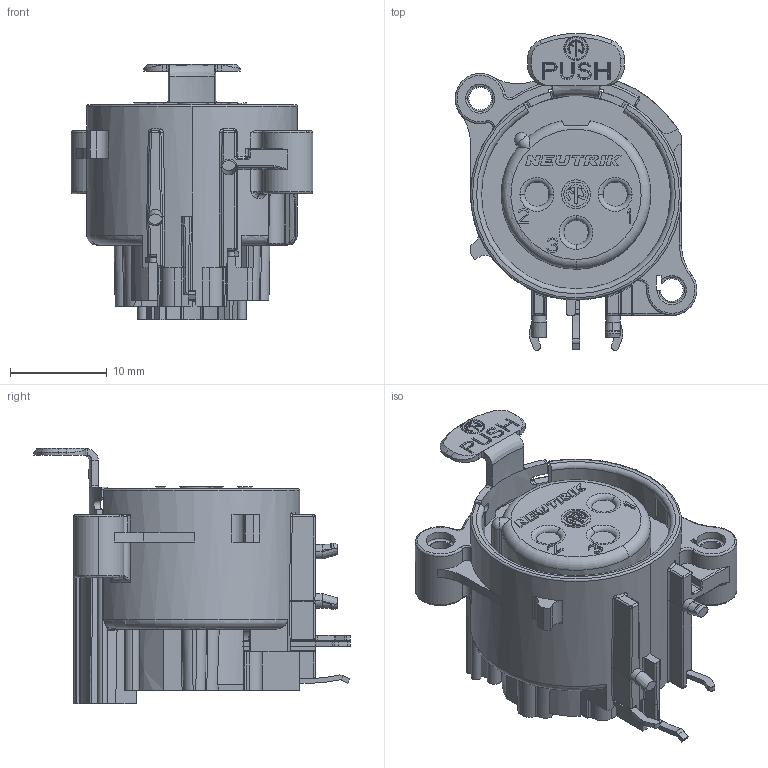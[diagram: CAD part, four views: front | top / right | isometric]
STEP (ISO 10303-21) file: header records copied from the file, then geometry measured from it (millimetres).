
FILE_DESCRIPTION (( 'STEP AP214' ), '1' );
FILE_NAME ('NC3FAAH.STEP', '2024-05-20T15:12:20', ( '' ), ( '' ), 'SwSTEP 2.0', 'SolidWorks 2021', '' );
FILE_SCHEMA (( 'AUTOMOTIVE_DESIGN' ));
Length unit declared in the file: millimetre
Products named in the file (1): NC3FAAH
Bounding box: 25 x 32.7 x 26.36 mm (x, y, z)
Volume: 6852.2 mm3; surface area: 4252.1 mm2
Topology: 4 solids, 4 shells, 1285 faces, 3435 edges, 2178 vertices
Faces by surface type: plane 775, cylinder 300, bspline 88, cone 52, torus 51, sphere 19
Entity records: 46987 total; most frequent: CARTESIAN_POINT 13426, ORIENTED_EDGE 6836, DIRECTION 6054, EDGE_CURVE 3418, LINE 2212, VECTOR 2212, VERTEX_POINT 2175, AXIS2_PLACEMENT_3D 1921
